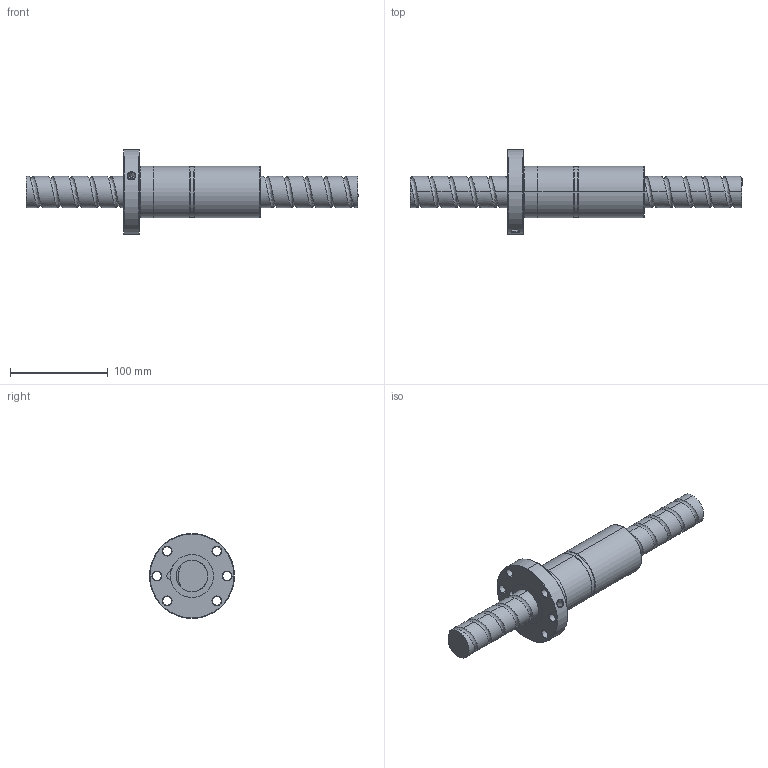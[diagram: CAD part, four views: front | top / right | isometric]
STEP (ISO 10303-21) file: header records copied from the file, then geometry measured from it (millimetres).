
FILE_DESCRIPTION (( 'STEP AP214' ), '1' );
FILE_NAME ('FDDC03220T2-D-A.STEP', '2010-07-06T05:17:28', ( 'XPAUTO' ), ( 'XPAUTO' ), 'SwSTEP 2.0', 'SolidWorks 2007', '' );
FILE_SCHEMA (( 'AUTOMOTIVE_DESIGN' ));
Length unit declared in the file: millimetre
Products named in the file (3): FDDC03220T2-D-A.sldasm-Part-2_預設; FDDC03220T2-D-A.sldasm-Part-1_預設; FDDC03220T2-D-A
Assembly tree (2 placements, depth 2):
  FDDC03220T2-D-A
    FDDC03220T2-D-A.sldasm-Part-1_預設
    FDDC03220T2-D-A.sldasm-Part-2_預設
Bounding box: 340 x 87 x 87 mm (x, y, z)
Volume: 507841.5 mm3; surface area: 90214.1 mm2
Topology: 2 solids, 2 shells, 134 faces, 332 edges, 207 vertices
Faces by surface type: cylinder 79, cone 24, plane 16, torus 10, bspline 5
Entity records: 25817 total; most frequent: CARTESIAN_POINT 22615, ORIENTED_EDGE 664, DIRECTION 638, EDGE_CURVE 332, AXIS2_PLACEMENT_3D 264, VERTEX_POINT 207, EDGE_LOOP 155, FACE_OUTER_BOUND 134
